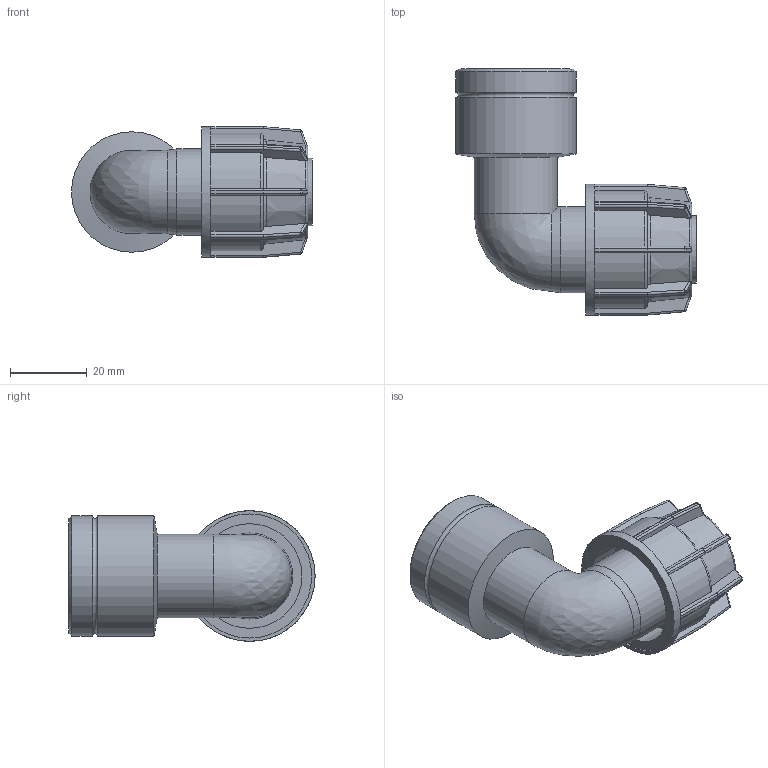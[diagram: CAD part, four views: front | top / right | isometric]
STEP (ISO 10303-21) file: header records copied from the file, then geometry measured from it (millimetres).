
FILE_DESCRIPTION(/* description */ ('PLASSON IRRIFIT ELBOW 16F-3/4"F'),/* implementation_level */ '2;1');
FILE_NAME(/* name */ 'C:\Dropbox\KIMPROJECTS-Inventor\99-16-3568-Processing\Silver+MF ISRAEL\041507\041507016007.ipt.stp',/* time_stamp */ '2018-04-09T12:59:57+03:00',/* author */ ('KIM'),/* organization */ (''),/* preprocessor_version */ 'ST-DEVELOPER v15.6',/* originating_system */ 'Autodesk Inventor 2015',/* authorisation */ '');
FILE_SCHEMA (('AUTOMOTIVE_DESIGN { 1 0 10303 214 3 1 1 }'));
Length unit declared in the file: millimetre
Products named in the file (1): 041507016007
Bounding box: 62.68 x 64 x 34 mm (x, y, z)
Volume: 27101.9 mm3; surface area: 16740.9 mm2
Topology: 1 solids, 1 shells, 275 faces, 650 edges, 374 vertices
Faces by surface type: plane 128, cylinder 84, sphere 32, torus 19, cone 11, bspline 1
Full cylindrical faces by diameter (mm): 16 x2, 17.6 x1, 19.2 x1, 21.705 x1, 22.4 x1, 24.117 x1, 27.2 x1, 31.352 x2, 32.3 x1, 34 x1
Entity records: 8070 total; most frequent: CARTESIAN_POINT 2102, DIRECTION 1256, ORIENTED_EDGE 1220, EDGE_CURVE 610, AXIS2_PLACEMENT_3D 508, VERTEX_POINT 361, EDGE_LOOP 301, FACE_OUTER_BOUND 275
